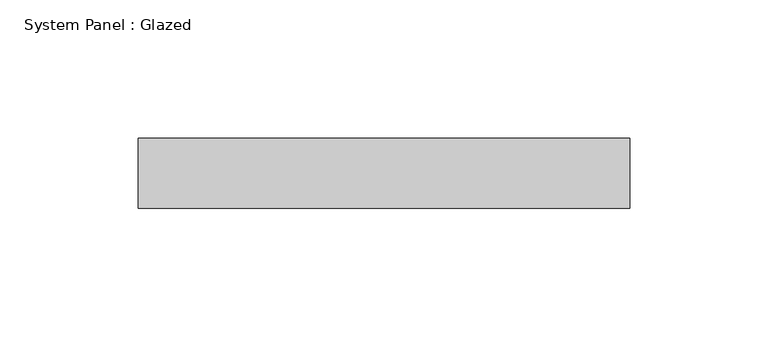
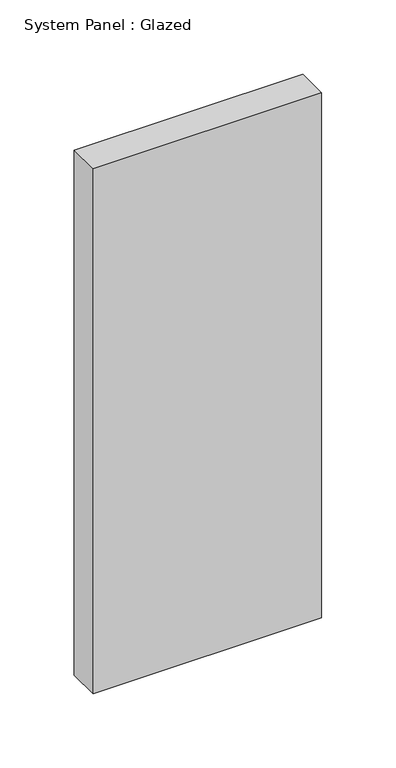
"""IFC4 building model written with IfcOpenShell, lengths in millimetres: plate geometry, System Panel : Glazed."""

from ifc_helpers import new_model, si_unit, origin, origin_with_axes, place, context, project, spatial, polyline, outline, extrude, source, transform, mapped, element, save


def system_panel_glazed_ace83418(model_context):
    return source(origin(), model_context, "Body", "SweptSolid", [
        extrude(outline(polyline([(89.0314755, 19.05), (-89.0314755, 19.05), (-89.0314755, 44.45), (89.0314755, 44.45), (89.0314755, 19.05)])), origin_with_axes(), (0.0, 0.0, 1.0), 431.8),
    ])


if __name__ == "__main__":
    model = new_model("IFC4")
    model_context = context("Model", 3, world=origin())
    ifc_project = project(units=[si_unit("LENGTHUNIT", "METRE", prefix="MILLI")], contexts=[model_context])
    site = spatial("IfcSite", under=ifc_project)
    building = spatial("IfcBuilding", under=site)
    placement = place(None, origin())
    system_panel_glazed_shape = system_panel_glazed_ace83418(model_context)
    element("IfcPlate", 1, ObjectType="System Panel : Glazed", at=placement, inside=building, context=model_context, shape_type="MappedRepresentation", body=[
        mapped(system_panel_glazed_shape, transform((0.0, 0.0, 0.0), x_axis=(1.0, 0.0, 0.0), y_axis=(0.0, 1.0, 0.0), z_axis=(0.0, 0.0, 1.0))),
    ])
    save(model, "model.ifc")
